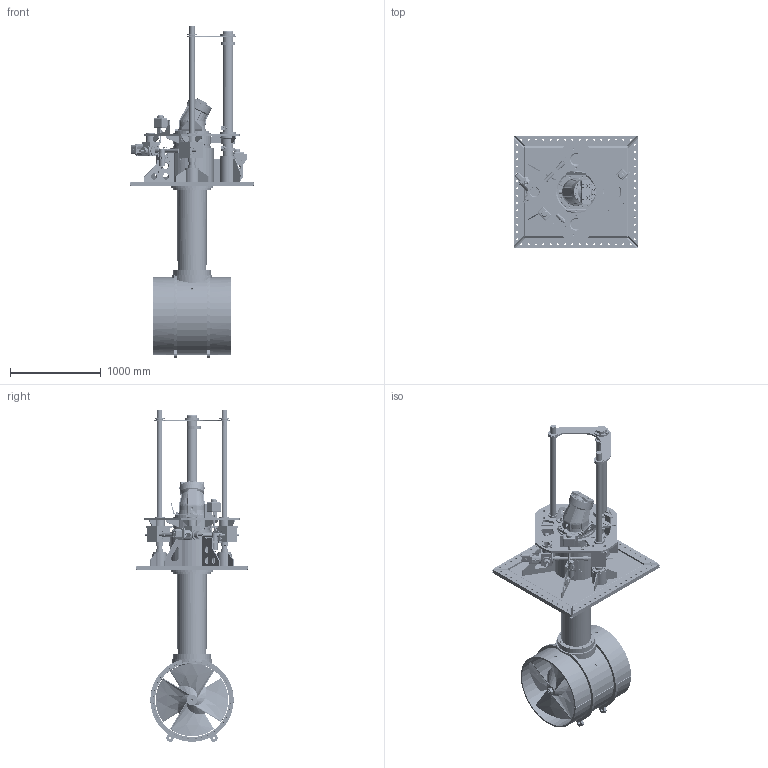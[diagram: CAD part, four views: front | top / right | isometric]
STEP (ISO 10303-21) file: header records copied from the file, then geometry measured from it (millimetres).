
FILE_DESCRIPTION(/* description */ (''),/* implementation_level */ '2;1');
FILE_NAME(/* name */ 'Q:\THRUSTERS\THRUSTER SALES & SUPPORT DOCS\THRUSTER Sales\H-V\H-0800-V\H-0800-V-DEPLOYED.stp',/* time_stamp */ '2020-03-17T13:01:41+00:00',/* author */ ('charlotte.richardson'),/* organization */ (''),/* preprocessor_version */ 'ST-DEVELOPER v17',/* originating_system */ 'Autodesk Inventor 2019',/* authorisation */ '');
FILE_SCHEMA (('AUTOMOTIVE_DESIGN { 1 0 10303 214 3 1 1 }'));
Length unit declared in the file: millimetre
Products named in the file (1): H-0800-V_Shrinkwrap_1
Bounding box: 1373.98 x 1233.98 x 3650.55 mm (x, y, z)
Volume: 311776399.1 mm3; surface area: 24669790.5 mm2
Topology: 9 solids, 9 shells, 4851 faces, 13054 edges, 8607 vertices
Faces by surface type: plane 2356, cylinder 1512, cone 401, bspline 387, torus 151, sphere 44
Full cylindrical faces by diameter (mm): 3 x6, 4.4 x4, 6 x6, 6.9 x1, 7.2 x2, 7.275 x1, 8 x5, 9 x5, 9.2 x1, 9.525 x1, 10 x1, 10.11 x16, 10.25 x18, 10.3 x14, 10.5 x57, 11 x19, 11.8 x3, 12 x2, 12.4 x8, 12.5 x16, 13 x8, 13.157 x1, 14 x12, 15.25 x4, 16 x1, 16.5 x4, 17 x48, 17.29 x2, 17.3 x1, 17.5 x19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
Entity records: 187646 total; most frequent: CARTESIAN_POINT 60709, ORIENTED_EDGE 25880, DIRECTION 24750, EDGE_CURVE 12940, AXIS2_PLACEMENT_3D 9163, VERTEX_POINT 8607, LINE 6424, VECTOR 6424
